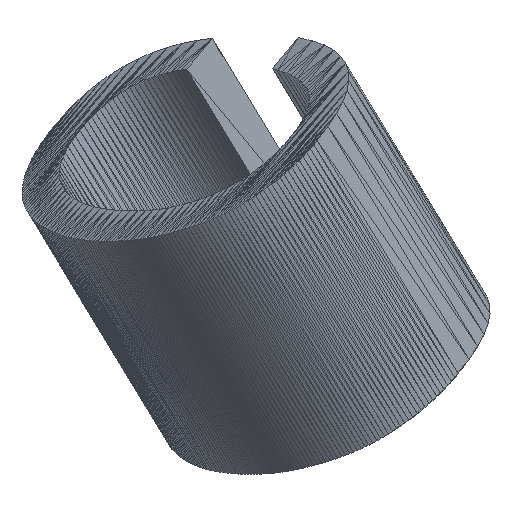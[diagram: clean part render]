
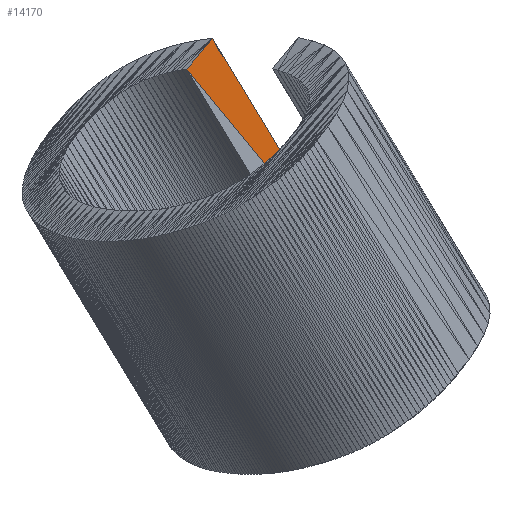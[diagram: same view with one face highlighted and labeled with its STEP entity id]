
A CAD part, isometric view. The second image highlights one B-rep face of the part: STEP entity #14170.
In plain terms, the highlighted planar face has unit normal (0.071, -0.922, 0.38) as drawn and (-0.071, 0.922, -0.38) by its records, which use the part's own axes.
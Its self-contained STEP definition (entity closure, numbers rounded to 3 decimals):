
#63=DIRECTION('',(0.433,-0.315,-0.844));
#206=DIRECTION('',(0.296,-0.345,-0.891));
#1000=DIRECTION('',(-0.953,-0.176,-0.248));
#1213=VECTOR('',#63,1.);
#1356=VECTOR('',#206,1.);
#2150=VECTOR('',#1000,1.);
#2433=CARTESIAN_POINT('',(-3.491,-3.444,0.586));
#2441=CARTESIAN_POINT('',(-3.544,-3.454,0.572));
#2757=CARTESIAN_POINT('',(-3.38,-3.573,0.251));
#2917=VERTEX_POINT('',#2433);
#2925=VERTEX_POINT('',#2441);
#3241=VERTEX_POINT('',#2757);
#3680=LINE('',#2433,#1356);
#3699=LINE('',#2433,#2150);
#3700=LINE('',#2441,#1213);
#5126=EDGE_CURVE('',#2917,#3241,#3680,.T.);
#5145=EDGE_CURVE('',#2917,#2925,#3699,.T.);
#5146=EDGE_CURVE('',#2925,#3241,#3700,.T.);
#6572=ORIENTED_EDGE('',*,*,#5126,.T.);
#8037=ORIENTED_EDGE('',*,*,#5145,.F.);
#8038=ORIENTED_EDGE('',*,*,#5146,.F.);
#9350=EDGE_LOOP('',(#8037,#6572,#8038));
#10314=FACE_OUTER_BOUND('',#9350,.T.);
#11530=DIRECTION('',(-0.071,0.922,-0.38));
#11531=AXIS2_PLACEMENT_3D('',#2441,#11530,#1000);
#13206=PLANE('',#11531);
#14170=ADVANCED_FACE('',(#10314),#13206,.T.);
